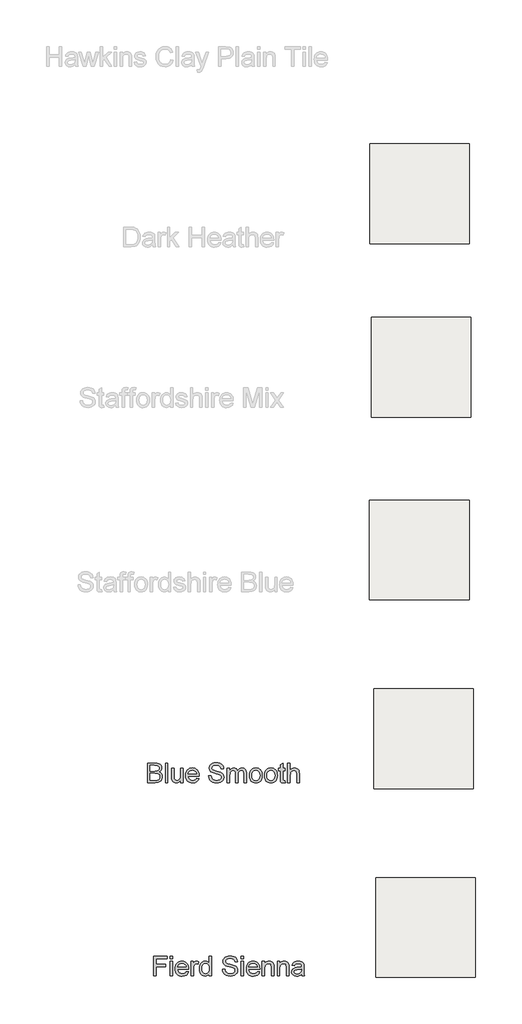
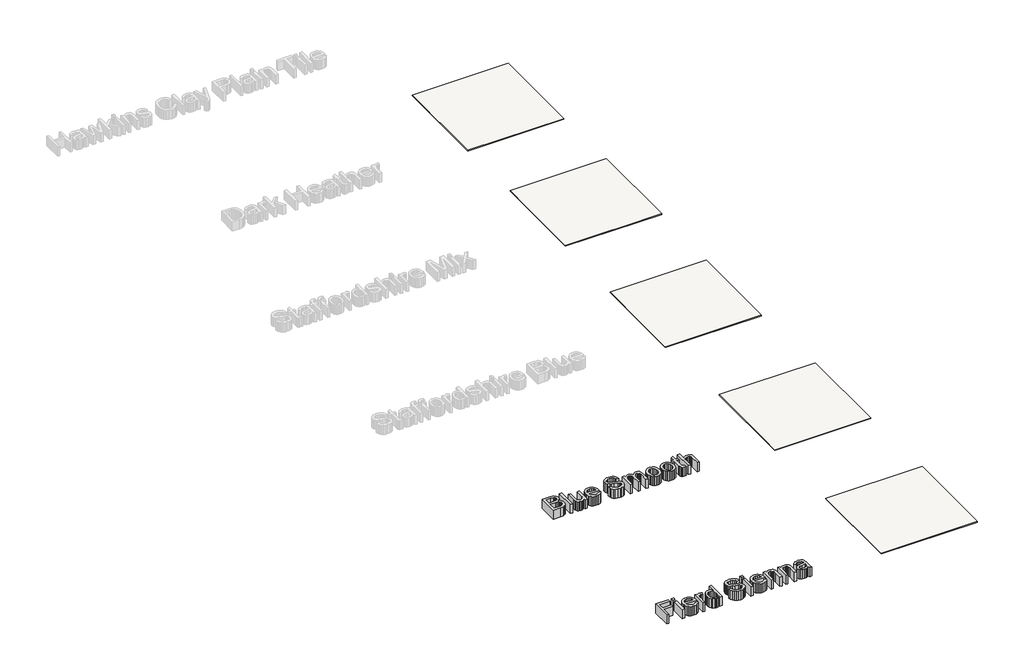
# One storey, part 1 of 4: 5 coverings, 2 proxies.
"""IFC4 building model written with IfcOpenShell, lengths in millimetres."""

from ifc_helpers import new_model, si_unit, frame, origin, place, context, project, spatial, polyline, outline, extrude, element, save

model = new_model("IFC4")

# Units and contexts
model_context = context("Model", 3, world=origin())
ifc_project = project(units=[si_unit("LENGTHUNIT", "METRE", prefix="MILLI")], contexts=[model_context])

# Site, building, storey
site = spatial("IfcSite", under=ifc_project)
building = spatial("IfcBuilding", under=site)
storey = spatial("IfcBuildingStorey", under=building, Name="Marley Clay Plain Tile", Elevation=3000.0)

# Proxies
placement = place(None, origin())
element("IfcBuildingElementProxy", 1, Name="600mm Arial", ObjectType="600mm Arial", at=placement, inside=storey, context=model_context, shape_type="SweptSolid", body=[
    extrude(outline(polyline([(-13897.6052625, -4807.180085), (-13897.6052625, -4511.7954696), (-13784.8889163, -4511.7954696), (-13753.8883154, -4513.9679456), (-13729.6845894, -4520.4853735), (-13711.1329067, -4531.5100129), (-13697.0884355, -4547.2041235), (-13688.2452865, -4565.6656619), (-13685.2975702, -4584.992585), (-13687.7765365, -4602.7780417), (-13695.2134355, -4619.4997965), (-13707.6623538, -4634.1302052), (-13725.1773779, -4645.6416235), (-13704.2549019, -4656.5671042), (-13688.7951663, -4673.1897004), (-13679.2488923, -4694.4096523), (-13676.0668009, -4719.1272004), (-13678.2392769, -4739.7251571), (-13684.7567048, -4758.8267196), (-13694.4832673, -4775.07071), (-13706.2831471, -4787.0959504), (-13720.7332673, -4795.8038831), (-13738.4105509, -4802.0959504), (-13785.7543009, -4807.180085), (-13897.6052625, -4807.180085)]), holes=[polyline([(-13860.6821855, -4631.7954696), (-13793.2543009, -4631.7954696), (-13753.8793009, -4628.6223927), (-13740.096248, -4623.1506379), (-13730.1893971, -4614.9565273), (-13724.2128346, -4604.1662629), (-13722.2206471, -4590.9060465), (-13724.0776182, -4578.0334504), (-13729.6485317, -4566.8195081), (-13738.6809836, -4558.0665033), (-13750.9225702, -4552.5767196), (-13798.3744932, -4548.7185465), (-13860.6821855, -4548.7185465), (-13860.6821855, -4631.7954696)]), polyline([(-13860.6821855, -4770.2570081), (-13784.9610317, -4770.2570081), (-13757.5571855, -4768.8147004), (-13734.3720894, -4760.773835), (-13719.0115125, -4744.367585), (-13714.4952865, -4732.7750369), (-13712.9898779, -4719.4877773), (-13714.7567048, -4704.055085), (-13720.0571855, -4690.7858542), (-13729.314998, -4680.4102533), (-13742.9538202, -4673.6584504), (-13762.2717288, -4669.9535225), (-13788.5668009, -4668.7185465), (-13860.6821855, -4668.7185465), (-13860.6821855, -4770.2570081)])]), frame((0.0, 0.0, 3000.0), z_axis=(0.0, 0.0, 1.0), x_axis=(1.0, 0.0, 0.0)), (0.0, 0.0, 1.0), 150.0),
    extrude(outline(polyline([(-13629.9129548, -4807.180085), (-13629.9129548, -4511.7954696), (-13592.9898779, -4511.7954696), (-13592.9898779, -4807.180085), (-13629.9129548, -4807.180085)])), frame((0.0, 0.0, 3000.0), z_axis=(0.0, 0.0, 1.0), x_axis=(1.0, 0.0, 0.0)), (0.0, 0.0, 1.0), 150.0),
    extrude(outline(polyline([(-13399.143724, -4807.180085), (-13399.143724, -4769.8964312), (-13412.503099, -4788.2272605), (-13428.0619932, -4801.32071), (-13445.8204067, -4809.1767797), (-13465.7783394, -4811.7954696), (-13483.7621134, -4809.9565273), (-13500.5018971, -4804.4397004), (-13514.5463682, -4796.1464312), (-13524.4442048, -4785.9781619), (-13535.4418009, -4758.7906619), (-13537.6052625, -4724.4637388), (-13537.6052625, -4590.2570081), (-13500.6821855, -4590.2570081), (-13500.6821855, -4707.0839312), (-13498.4466086, -4744.7281619), (-13493.064998, -4757.2852533), (-13483.8432432, -4766.8315273), (-13471.394325, -4772.8621763), (-13456.331224, -4774.8723927), (-13440.4027384, -4772.8171042), (-13425.5018971, -4766.6512388), (-13413.2152384, -4756.9427052), (-13405.1293009, -4744.2594119), (-13400.6401182, -4726.8886187), (-13399.143724, -4703.117585), (-13399.143724, -4590.2570081), (-13362.2206471, -4590.2570081), (-13362.2206471, -4807.180085), (-13399.143724, -4807.180085)])), frame((0.0, 0.0, 3000.0), z_axis=(0.0, 0.0, 1.0), x_axis=(1.0, 0.0, 0.0)), (0.0, 0.0, 1.0), 150.0),
    extrude(outline(polyline([(-13159.5764163, -4742.5647004), (-13123.3744932, -4747.180085), (-13136.4183634, -4774.4577292), (-13157.2326663, -4794.8483542), (-13185.3486519, -4807.5586908), (-13220.2975702, -4811.7954696), (-13243.2077264, -4809.9677953), (-13263.6208875, -4804.4847725), (-13281.5370533, -4795.3464011), (-13296.956224, -4782.5526812), (-13309.3555629, -4766.4596824), (-13318.2122336, -4747.4234744), (-13323.526236, -4725.4440574), (-13325.2975702, -4700.5214312), (-13323.5082072, -4674.7537028), (-13318.1401182, -4652.0418638), (-13309.1933033, -4632.3859143), (-13296.6677625, -4615.7858542), (-13281.2891567, -4602.5977533), (-13263.7831471, -4593.1776812), (-13244.1497336, -4587.5256379), (-13222.3889163, -4585.6416235), (-13201.3289704, -4587.5211307), (-13182.283748, -4593.1596523), (-13165.2532492, -4602.5571884), (-13150.237474, -4615.7137388), (-13137.9801122, -4632.2777413), (-13129.2248538, -4651.8976331), (-13123.9716988, -4674.5734143), (-13122.2206471, -4700.305085), (-13122.4369932, -4710.2570081), (-13288.3744932, -4710.2570081), (-13281.9832673, -4737.8952292), (-13267.1365125, -4758.2137388), (-13245.7092288, -4770.7077292), (-13219.5764163, -4774.8723927), (-13199.924974, -4772.9433062), (-13183.3744932, -4767.1560465), (-13169.924974, -4757.1500369), (-13159.5764163, -4742.5647004)]), holes=[polyline([(-13288.3744932, -4673.3339312), (-13159.143724, -4673.3339312), (-13164.1377144, -4653.8267196), (-13173.9273779, -4639.8723927), (-13195.4538202, -4626.8916235), (-13222.5331471, -4622.5647004), (-13247.4219692, -4626.0172244), (-13268.0018971, -4636.3747965), (-13282.3077865, -4652.5196283), (-13288.3744932, -4673.3339312)])]), frame((0.0, 0.0, 3000.0), z_axis=(0.0, 0.0, 1.0), x_axis=(1.0, 0.0, 0.0)), (0.0, 0.0, 1.0), 150.0),
    extrude(outline(polyline([(-12979.143724, -4705.6416235), (-12942.2206471, -4705.6416235), (-12937.9838682, -4726.1314071), (-12930.3216086, -4742.6007581), (-12918.3684836, -4755.6716715), (-12901.2591086, -4765.9661427), (-12880.3456471, -4772.6458302), (-12856.9802625, -4774.8723927), (-12836.409349, -4773.1866956), (-12818.3985317, -4768.1296042), (-12803.8041807, -4760.1247965), (-12793.4826663, -4749.5959504), (-12787.3438442, -4737.507609), (-12785.2975702, -4724.8243158), (-12786.8300221, -4712.4655417), (-12791.4273779, -4701.7834504), (-12800.7663202, -4692.6698687), (-12816.5235317, -4685.0166235), (-12870.2855509, -4670.9180658), (-12905.5770173, -4661.5881379), (-12928.1581471, -4652.7089312), (-12946.5385557, -4640.2870562), (-12959.5643971, -4625.2329696), (-12967.3258154, -4607.8711908), (-12969.9129548, -4588.5262388), (-12966.7128346, -4566.9006379), (-12957.112474, -4546.7353735), (-12941.3642769, -4529.6440273), (-12919.7206471, -4517.2401812), (-12893.7410798, -4509.695109), (-12864.9850702, -4507.180085), (-12833.831224, -4509.8122965), (-12806.5716086, -4517.7089312), (-12784.1797817, -4530.7077292), (-12767.6293009, -4548.6464312), (-12757.1545413, -4570.4072485), (-12752.9898779, -4594.8723927), (-12789.9129548, -4594.8723927), (-12796.6918009, -4572.8411427), (-12810.8264163, -4556.9397004), (-12832.9117529, -4547.3122965), (-12863.5427625, -4544.1031619), (-12894.8949259, -4547.2762388), (-12916.4033394, -4556.7954696), (-12928.8432432, -4570.8038831), (-12932.9898779, -4587.4445081), (-12930.0511759, -4601.63321), (-12921.2350702, -4613.0454696), (-12900.393724, -4623.2497965), (-12860.9466086, -4633.6704696), (-12795.6100702, -4652.2041235), (-12774.5613923, -4665.5995562), (-12759.8768971, -4682.1320081), (-12751.2500942, -4701.6211908), (-12748.3744932, -4723.8868158), (-12751.6827865, -4746.648234), (-12761.6076663, -4768.0574888), (-12777.7434836, -4786.4829696), (-12799.6845894, -4800.2930658), (-12826.0698057, -4808.9198687), (-12855.5379548, -4811.7954696), (-12891.7128346, -4808.6945081), (-12921.487474, -4799.3916235), (-12945.2044211, -4783.8507581), (-12963.206224, -4762.0358542), (-12974.7627144, -4735.461335), (-12979.143724, -4705.6416235)])), frame((0.0, 0.0, 3000.0), z_axis=(0.0, 0.0, 1.0), x_axis=(1.0, 0.0, 0.0)), (0.0, 0.0, 1.0), 150.0),
    extrude(outline(polyline([(-12697.6052625, -4807.180085), (-12697.6052625, -4590.2570081), (-12660.6821855, -4590.2570081), (-12660.6821855, -4625.9541235), (-12649.5764163, -4609.5568879), (-12635.2975702, -4596.711335), (-12618.3324259, -4588.4090513), (-12599.1677625, -4585.6416235), (-12578.6329067, -4588.4631379), (-12562.1725702, -4596.9276812), (-12549.8768971, -4610.476359), (-12541.8360317, -4628.5502773), (-12528.377498, -4609.7777413), (-12513.0259355, -4596.3687869), (-12495.7813442, -4588.3234143), (-12476.643724, -4585.6416235), (-12448.8883154, -4590.1037629), (-12428.362474, -4603.4901812), (-12415.6791807, -4626.1614552), (-12411.4514163, -4658.4781619), (-12411.4514163, -4807.180085), (-12448.3744932, -4807.180085), (-12448.3744932, -4674.3435465), (-12451.799974, -4643.5142196), (-12456.6136759, -4635.0136187), (-12464.2038202, -4628.3339312), (-12473.9664404, -4624.0070081), (-12485.2975702, -4622.5647004), (-12505.300575, -4626.2606138), (-12521.6076663, -4637.3483542), (-12532.4520173, -4656.5851331), (-12536.0668009, -4684.7281619), (-12536.0668009, -4807.180085), (-12572.9898779, -4807.180085), (-12572.9898779, -4670.2329696), (-12575.1262961, -4649.3555658), (-12581.5355509, -4634.4637388), (-12592.8125942, -4625.53946), (-12609.5523779, -4622.5647004), (-12623.7771375, -4624.5478735), (-12636.8841086, -4630.4973927), (-12647.7014163, -4640.2690273), (-12655.0571855, -4653.7185465), (-12659.2759355, -4672.3784023), (-12660.6821855, -4697.7810465), (-12660.6821855, -4807.180085), (-12697.6052625, -4807.180085)])), frame((0.0, 0.0, 3000.0), z_axis=(0.0, 0.0, 1.0), x_axis=(1.0, 0.0, 0.0)), (0.0, 0.0, 1.0), 150.0),
    extrude(outline(polyline([(-12365.2975702, -4698.7185465), (-12363.3008754, -4670.625097), (-12357.3107913, -4646.4168638), (-12347.3273178, -4626.093847), (-12333.3504548, -4609.6560465), (-12319.2789404, -4599.1497364), (-12303.7470894, -4591.6452292), (-12286.7549019, -4587.1425249), (-12268.3023779, -4585.6416235), (-12247.9320353, -4587.4692977), (-12229.5133154, -4592.9523206), (-12213.046218, -4602.090692), (-12198.5307432, -4614.8844119), (-12186.6835377, -4630.9007881), (-12178.221248, -4649.7071283), (-12173.1438742, -4671.3034324), (-12171.4514163, -4695.6897004), (-12174.4442048, -4732.9913831), (-12183.4225702, -4761.3868158), (-12198.1250942, -4782.6518398), (-12218.2903586, -4798.5622965), (-12242.2416807, -4808.4871763), (-12268.3023779, -4811.7954696), (-12288.9701964, -4809.9745562), (-12307.5601904, -4804.5118158), (-12324.0723598, -4795.4072485), (-12338.5067048, -4782.6608542), (-12350.2277084, -4766.4889792), (-12358.5998538, -4747.1079696), (-12363.6231411, -4724.5178254), (-12365.2975702, -4698.7185465)]), holes=[polyline([(-12328.3744932, -4698.6464312), (-12324.1016567, -4732.0628975), (-12311.2831471, -4755.8699888), (-12291.9922817, -4770.1217917), (-12268.3023779, -4774.8723927), (-12244.7206471, -4770.0947485), (-12225.4658394, -4755.7618158), (-12212.6473298, -4731.6392196), (-12208.3744932, -4697.492585), (-12212.674373, -4665.0496763), (-12225.5740125, -4641.5671042), (-12244.8558634, -4627.3153013), (-12268.3023779, -4622.5647004), (-12291.9922817, -4627.2972725), (-12311.2831471, -4641.4949888), (-12324.1016567, -4665.2479937), (-12328.3744932, -4698.6464312)])]), frame((0.0, 0.0, 3000.0), z_axis=(0.0, 0.0, 1.0), x_axis=(1.0, 0.0, 0.0)), (0.0, 0.0, 1.0), 150.0),
    extrude(outline(polyline([(-12139.143724, -4698.7185465), (-12137.1470293, -4670.625097), (-12131.1569452, -4646.4168638), (-12121.1734716, -4626.093847), (-12107.1966086, -4609.6560465), (-12093.1250942, -4599.1497364), (-12077.5932432, -4591.6452292), (-12060.6010557, -4587.1425249), (-12042.1485317, -4585.6416235), (-12021.7781891, -4587.4692977), (-12003.3594692, -4592.9523206), (-11986.8923718, -4602.090692), (-11972.3768971, -4614.8844119), (-11960.5296916, -4630.9007881), (-11952.0674019, -4649.7071283), (-11946.9900281, -4671.3034324), (-11945.2975702, -4695.6897004), (-11948.2903586, -4732.9913831), (-11957.268724, -4761.3868158), (-11971.971248, -4782.6518398), (-11992.1365125, -4798.5622965), (-12016.0878346, -4808.4871763), (-12042.1485317, -4811.7954696), (-12062.8163502, -4809.9745562), (-12081.4063442, -4804.5118158), (-12097.9185137, -4795.4072485), (-12112.3528586, -4782.6608542), (-12124.0738622, -4766.4889792), (-12132.4460077, -4747.1079696), (-12137.4692949, -4724.5178254), (-12139.143724, -4698.7185465)]), holes=[polyline([(-12102.2206471, -4698.6464312), (-12097.9478105, -4732.0628975), (-12085.1293009, -4755.8699888), (-12065.8384355, -4770.1217917), (-12042.1485317, -4774.8723927), (-12018.5668009, -4770.0947485), (-11999.3119932, -4755.7618158), (-11986.4934836, -4731.6392196), (-11982.2206471, -4697.492585), (-11986.5205269, -4665.0496763), (-11999.4201663, -4641.5671042), (-12018.7020173, -4627.3153013), (-12042.1485317, -4622.5647004), (-12065.8384355, -4627.2972725), (-12085.1293009, -4641.4949888), (-12097.9478105, -4665.2479937), (-12102.2206471, -4698.6464312)])]), frame((0.0, 0.0, 3000.0), z_axis=(0.0, 0.0, 1.0), x_axis=(1.0, 0.0, 0.0)), (0.0, 0.0, 1.0), 150.0),
    extrude(outline(polyline([(-11825.2975702, -4776.3868158), (-11820.6821855, -4808.2618158), (-11848.3023779, -4811.7954696), (-11866.0247336, -4810.2630177), (-11879.2398779, -4805.6656619), (-11888.5788202, -4798.5803254), (-11894.6725702, -4789.5839312), (-11898.0259355, -4774.13321), (-11899.143724, -4747.6848927), (-11899.143724, -4627.180085), (-11926.8360317, -4627.180085), (-11926.8360317, -4590.2570081), (-11899.143724, -4590.2570081), (-11899.143724, -4537.5406619), (-11862.2206471, -4515.8339312), (-11862.2206471, -4590.2570081), (-11825.2975702, -4590.2570081), (-11825.2975702, -4627.180085), (-11862.2206471, -4627.180085), (-11862.2206471, -4746.6031619), (-11860.2735317, -4765.6416235), (-11853.9634355, -4772.3844119), (-11841.3793009, -4774.8723927), (-11825.2975702, -4776.3868158)])), frame((0.0, 0.0, 3000.0), z_axis=(0.0, 0.0, 1.0), x_axis=(1.0, 0.0, 0.0)), (0.0, 0.0, 1.0), 150.0),
    extrude(outline(polyline([(-11788.3744932, -4807.180085), (-11788.3744932, -4511.7954696), (-11751.4514163, -4511.7954696), (-11751.4514163, -4620.4012388), (-11737.8892168, -4605.1939071), (-11722.659349, -4594.3315273), (-11705.7618129, -4587.8140994), (-11687.1966086, -4585.6416235), (-11664.8949259, -4588.0124167), (-11645.7302625, -4595.1247965), (-11630.6401182, -4606.4198687), (-11620.5619932, -4621.3387388), (-11614.8829067, -4641.8375369), (-11612.9898779, -4669.8723927), (-11612.9898779, -4807.180085), (-11649.9129548, -4807.180085), (-11649.9129548, -4673.6945081), (-11652.8516567, -4650.5815273), (-11661.6677625, -4634.7522004), (-11675.8744932, -4625.6115754), (-11694.9850702, -4622.5647004), (-11710.5890365, -4624.6199888), (-11725.237474, -4630.7858542), (-11737.3708875, -4640.4673446), (-11745.4297817, -4653.0695081), (-11749.9460077, -4669.8183062), (-11751.4514163, -4691.9397004), (-11751.4514163, -4807.180085), (-11788.3744932, -4807.180085)])), frame((0.0, 0.0, 3000.0), z_axis=(0.0, 0.0, 1.0), x_axis=(1.0, 0.0, 0.0)), (0.0, 0.0, 1.0), 150.0),
])
element("IfcBuildingElementProxy", 2, Name="600mm Arial", ObjectType="600mm Arial", at=placement, inside=storey, context=model_context, shape_type="SweptSolid", body=[
    extrude(outline(polyline([(-13805.257342, -7712.592749), (-13805.257342, -7417.2081336), (-13606.7958035, -7417.2081336), (-13606.7958035, -7454.1312105), (-13768.3342651, -7454.1312105), (-13768.3342651, -7541.8235182), (-13629.8727266, -7541.8235182), (-13629.8727266, -7578.7465952), (-13768.3342651, -7578.7465952), (-13768.3342651, -7712.592749), (-13805.257342, -7712.592749)])), frame((0.0, 0.0, 3000.0), z_axis=(0.0, 0.0, 1.0), x_axis=(1.0, 0.0, 0.0)), (0.0, 0.0, 1.0), 150.0),
    extrude(outline(polyline([(-13560.6419574, -7712.592749), (-13560.6419574, -7495.6696721), (-13523.7188805, -7495.6696721), (-13523.7188805, -7712.592749), (-13560.6419574, -7712.592749)])), frame((0.0, 0.0, 3000.0), z_axis=(0.0, 0.0, 1.0), x_axis=(1.0, 0.0, 0.0)), (0.0, 0.0, 1.0), 150.0),
    extrude(outline(polyline([(-13560.6419574, -7454.1312105), (-13560.6419574, -7417.2081336), (-13523.7188805, -7417.2081336), (-13523.7188805, -7454.1312105), (-13560.6419574, -7454.1312105)])), frame((0.0, 0.0, 3000.0), z_axis=(0.0, 0.0, 1.0), x_axis=(1.0, 0.0, 0.0)), (0.0, 0.0, 1.0), 150.0),
    extrude(outline(polyline([(-13316.4592651, -7647.9773644), (-13280.257342, -7652.592749), (-13293.3012122, -7679.8703932), (-13314.1155151, -7700.2610182), (-13342.2315007, -7712.9713548), (-13377.1804189, -7717.2081336), (-13400.0905752, -7715.3804593), (-13420.5037362, -7709.8974365), (-13438.4199021, -7700.7590651), (-13453.8390728, -7687.9653452), (-13466.2384117, -7671.8723464), (-13475.0950824, -7652.8361384), (-13480.4090848, -7630.8567214), (-13482.1804189, -7605.9340952), (-13480.3910559, -7580.1663668), (-13475.022967, -7557.4545278), (-13466.0761521, -7537.7985783), (-13453.5506112, -7521.1985182), (-13438.1720055, -7508.0104173), (-13420.6659959, -7498.5903452), (-13401.0325824, -7492.9383019), (-13379.2717651, -7491.0542875), (-13358.2118192, -7492.9337947), (-13339.1665968, -7498.5723163), (-13322.136098, -7507.9698524), (-13307.1203228, -7521.1264028), (-13294.862961, -7537.6904053), (-13286.1077026, -7557.3102971), (-13280.8545475, -7579.9860783), (-13279.1034959, -7605.717749), (-13279.319842, -7615.6696721), (-13445.257342, -7615.6696721), (-13438.866116, -7643.3078932), (-13424.0193612, -7663.6264028), (-13402.5920776, -7676.1203932), (-13376.4592651, -7680.2850567), (-13356.8078228, -7678.3559702), (-13340.257342, -7672.5687105), (-13326.8078228, -7662.5627009), (-13316.4592651, -7647.9773644)]), holes=[polyline([(-13445.257342, -7578.7465952), (-13316.0265728, -7578.7465952), (-13321.0205632, -7559.2393836), (-13330.8102266, -7545.2850567), (-13352.3366689, -7532.3042875), (-13379.4159959, -7527.9773644), (-13404.304818, -7531.4298884), (-13424.8847459, -7541.7874605), (-13439.1906353, -7557.9322923), (-13445.257342, -7578.7465952)])]), frame((0.0, 0.0, 3000.0), z_axis=(0.0, 0.0, 1.0), x_axis=(1.0, 0.0, 0.0)), (0.0, 0.0, 1.0), 150.0),
    extrude(outline(polyline([(-13242.1804189, -7712.592749), (-13242.1804189, -7495.6696721), (-13209.8727266, -7495.6696721), (-13209.8727266, -7527.7610182), (-13197.9376305, -7509.155249), (-13186.9400343, -7498.1937105), (-13175.9063805, -7492.8391432), (-13163.8631112, -7491.0542875), (-13145.4736882, -7493.9028452), (-13126.7958035, -7502.4485182), (-13139.1275343, -7535.5494798), (-13152.1083035, -7529.8703932), (-13165.0890728, -7527.9773644), (-13176.1137122, -7529.7982778), (-13185.9664766, -7535.2610182), (-13193.9262122, -7543.9509221), (-13199.2717651, -7555.4533259), (-13203.7609478, -7576.0783259), (-13205.257342, -7598.5783259), (-13205.257342, -7712.592749), (-13242.1804189, -7712.592749)])), frame((0.0, 0.0, 3000.0), z_axis=(0.0, 0.0, 1.0), x_axis=(1.0, 0.0, 0.0)), (0.0, 0.0, 1.0), 150.0),
    extrude(outline(polyline([(-12969.8727266, -7712.592749), (-12969.8727266, -7677.7610182), (-12980.9199021, -7695.0191312), (-12994.3018132, -7707.3463548), (-13010.0184598, -7714.7426889), (-13028.069842, -7717.2081336), (-13051.9400343, -7713.6384221), (-13073.7909959, -7702.9292875), (-13092.288592, -7685.8289269), (-13106.0986882, -7663.0855375), (-13114.6984478, -7635.6185903), (-13117.5650343, -7604.3475567), (-13114.9238084, -7573.4641432), (-13107.0001305, -7545.5735182), (-13093.8030151, -7522.2622202), (-13075.3414766, -7505.1167875), (-13053.0127507, -7494.5699125), (-13028.2140728, -7491.0542875), (-13010.1491689, -7493.5693115), (-12994.1756112, -7501.1143836), (-12980.6359478, -7512.6798884), (-12969.8727266, -7527.2562105), (-12969.8727266, -7417.2081336), (-12932.9496497, -7417.2081336), (-12932.9496497, -7712.592749), (-12969.8727266, -7712.592749)]), holes=[polyline([(-13080.6419574, -7604.2033259), (-13076.4772939, -7637.6017634), (-13063.9833035, -7661.3547682), (-13045.8282555, -7675.5524846), (-13024.6804189, -7680.2850567), (-13003.5415968, -7675.7688307), (-12985.8462843, -7662.2201528), (-12973.866116, -7639.3866192), (-12969.8727266, -7607.0158259), (-12973.9382314, -7571.6252009), (-12986.1347459, -7547.0879413), (-13004.2807795, -7532.7550086), (-13026.194842, -7527.9773644), (-13047.5590247, -7532.5657057), (-13065.0650343, -7546.3307298), (-13076.7477266, -7569.9755615), (-13080.6419574, -7604.2033259)])]), frame((0.0, 0.0, 3000.0), z_axis=(0.0, 0.0, 1.0), x_axis=(1.0, 0.0, 0.0)), (0.0, 0.0, 1.0), 150.0),
    extrude(outline(polyline([(-12771.4111882, -7611.0542875), (-12734.4881112, -7611.0542875), (-12730.2513324, -7631.5440711), (-12722.5890728, -7648.0134221), (-12710.6359478, -7661.0843355), (-12693.5265728, -7671.3788067), (-12672.6131112, -7678.0584942), (-12649.2477266, -7680.2850567), (-12628.6768132, -7678.5993596), (-12610.6659959, -7673.5422682), (-12596.0716449, -7665.5374605), (-12585.7501305, -7655.0086144), (-12579.6113084, -7642.920273), (-12577.5650343, -7630.2369798), (-12579.0974862, -7617.8782057), (-12583.694842, -7607.1961144), (-12593.0337843, -7598.0825327), (-12608.7909959, -7590.4292875), (-12662.5530151, -7576.3307298), (-12697.8444814, -7567.0008019), (-12720.4256112, -7558.1215952), (-12738.8060199, -7545.6997202), (-12751.8318612, -7530.6456336), (-12759.5932795, -7513.2838548), (-12762.1804189, -7493.9389028), (-12758.9802987, -7472.3133019), (-12749.3799382, -7452.1480375), (-12733.631741, -7435.0566913), (-12711.9881112, -7422.6528452), (-12686.0085439, -7415.107773), (-12657.2525343, -7412.592749), (-12626.0986882, -7415.2249605), (-12598.8390728, -7423.1215952), (-12576.4472459, -7436.1203932), (-12559.8967651, -7454.0590952), (-12549.4220055, -7475.8199125), (-12545.257342, -7500.2850567), (-12582.1804189, -7500.2850567), (-12588.9592651, -7478.2538067), (-12603.0938805, -7462.3523644), (-12625.179217, -7452.7249605), (-12655.8102266, -7449.5158259), (-12687.1623901, -7452.6889028), (-12708.6708035, -7462.2081336), (-12721.1107074, -7476.2165471), (-12725.257342, -7492.8571721), (-12722.3186401, -7507.045874), (-12713.5025343, -7518.4581336), (-12692.6611882, -7528.6624605), (-12653.2140728, -7539.0831336), (-12587.8775343, -7557.6167875), (-12566.8288564, -7571.0122202), (-12552.1443612, -7587.5446721), (-12543.5175584, -7607.0338548), (-12540.6419574, -7629.2994798), (-12543.9502507, -7652.060898), (-12553.8751305, -7673.4701528), (-12570.0109478, -7691.8956336), (-12591.9520535, -7705.7057298), (-12618.3372699, -7714.3325327), (-12647.8054189, -7717.2081336), (-12683.9802987, -7714.1071721), (-12713.7549382, -7704.8042875), (-12737.4718853, -7689.2634221), (-12755.4736882, -7667.4485182), (-12767.0301785, -7640.873999), (-12771.4111882, -7611.0542875)])), frame((0.0, 0.0, 3000.0), z_axis=(0.0, 0.0, 1.0), x_axis=(1.0, 0.0, 0.0)), (0.0, 0.0, 1.0), 150.0),
    extrude(outline(polyline([(-12489.8727266, -7712.592749), (-12489.8727266, -7495.6696721), (-12452.9496497, -7495.6696721), (-12452.9496497, -7712.592749), (-12489.8727266, -7712.592749)])), frame((0.0, 0.0, 3000.0), z_axis=(0.0, 0.0, 1.0), x_axis=(1.0, 0.0, 0.0)), (0.0, 0.0, 1.0), 150.0),
    extrude(outline(polyline([(-12489.8727266, -7454.1312105), (-12489.8727266, -7417.2081336), (-12452.9496497, -7417.2081336), (-12452.9496497, -7454.1312105), (-12489.8727266, -7454.1312105)])), frame((0.0, 0.0, 3000.0), z_axis=(0.0, 0.0, 1.0), x_axis=(1.0, 0.0, 0.0)), (0.0, 0.0, 1.0), 150.0),
    extrude(outline(polyline([(-12245.6900343, -7647.9773644), (-12209.4881112, -7652.592749), (-12222.5319814, -7679.8703932), (-12243.3462843, -7700.2610182), (-12271.4622699, -7712.9713548), (-12306.4111882, -7717.2081336), (-12329.3213444, -7715.3804593), (-12349.7345055, -7709.8974365), (-12367.6506713, -7700.7590651), (-12383.069842, -7687.9653452), (-12395.4691809, -7671.8723464), (-12404.3258516, -7652.8361384), (-12409.639854, -7630.8567214), (-12411.4111882, -7605.9340952), (-12409.6218252, -7580.1663668), (-12404.2537362, -7557.4545278), (-12395.3069213, -7537.7985783), (-12382.7813805, -7521.1985182), (-12367.4027747, -7508.0104173), (-12349.8967651, -7498.5903452), (-12330.2633516, -7492.9383019), (-12308.5025343, -7491.0542875), (-12287.4425884, -7492.9337947), (-12268.397366, -7498.5723163), (-12251.3668672, -7507.9698524), (-12236.351092, -7521.1264028), (-12224.0937302, -7537.6904053), (-12215.3384718, -7557.3102971), (-12210.0853168, -7579.9860783), (-12208.3342651, -7605.717749), (-12208.5506112, -7615.6696721), (-12374.4881112, -7615.6696721), (-12368.0968853, -7643.3078932), (-12353.2501305, -7663.6264028), (-12331.8228468, -7676.1203932), (-12305.6900343, -7680.2850567), (-12286.038592, -7678.3559702), (-12269.4881112, -7672.5687105), (-12256.038592, -7662.5627009), (-12245.6900343, -7647.9773644)]), holes=[polyline([(-12374.4881112, -7578.7465952), (-12245.257342, -7578.7465952), (-12250.2513324, -7559.2393836), (-12260.0409959, -7545.2850567), (-12281.5674382, -7532.3042875), (-12308.6467651, -7527.9773644), (-12333.5355872, -7531.4298884), (-12354.1155151, -7541.7874605), (-12368.4214045, -7557.9322923), (-12374.4881112, -7578.7465952)])]), frame((0.0, 0.0, 3000.0), z_axis=(0.0, 0.0, 1.0), x_axis=(1.0, 0.0, 0.0)), (0.0, 0.0, 1.0), 150.0),
    extrude(outline(polyline([(-12171.4111882, -7712.592749), (-12171.4111882, -7495.6696721), (-12134.4881112, -7495.6696721), (-12134.4881112, -7525.9581336), (-12121.6605872, -7510.6877009), (-12106.2549382, -7499.780249), (-12088.2711641, -7493.2357778), (-12067.7092651, -7491.0542875), (-12049.5091449, -7492.8121), (-12032.8414766, -7498.0855375), (-12018.9412362, -7506.2165471), (-12009.0433997, -7516.5470759), (-11997.9736882, -7543.6985182), (-11996.0265728, -7579.3956336), (-11996.0265728, -7712.592749), (-12032.9496497, -7712.592749), (-12032.9496497, -7584.3715952), (-12037.2044574, -7551.7033259), (-12043.0908757, -7541.9767634), (-12052.2405151, -7534.4316913), (-12063.9682795, -7529.5909461), (-12077.5890728, -7527.9773644), (-12099.2146737, -7531.6011625), (-12117.6491689, -7542.4725567), (-12125.0162062, -7551.3472562), (-12130.2783757, -7563.4761625), (-12134.4881112, -7597.4965952), (-12134.4881112, -7712.592749), (-12171.4111882, -7712.592749)])), frame((0.0, 0.0, 3000.0), z_axis=(0.0, 0.0, 1.0), x_axis=(1.0, 0.0, 0.0)), (0.0, 0.0, 1.0), 150.0),
    extrude(outline(polyline([(-11945.257342, -7712.592749), (-11945.257342, -7495.6696721), (-11908.3342651, -7495.6696721), (-11908.3342651, -7525.9581336), (-11895.506741, -7510.6877009), (-11880.101092, -7499.780249), (-11862.117318, -7493.2357778), (-11841.5554189, -7491.0542875), (-11823.3552987, -7492.8121), (-11806.6876305, -7498.0855375), (-11792.7873901, -7506.2165471), (-11782.8895535, -7516.5470759), (-11771.819842, -7543.6985182), (-11769.8727266, -7579.3956336), (-11769.8727266, -7712.592749), (-11806.7958035, -7712.592749), (-11806.7958035, -7584.3715952), (-11811.0506112, -7551.7033259), (-11816.9370295, -7541.9767634), (-11826.0866689, -7534.4316913), (-11837.8144334, -7529.5909461), (-11851.4352266, -7527.9773644), (-11873.0608276, -7531.6011625), (-11891.4953228, -7542.4725567), (-11898.86236, -7551.3472562), (-11904.1245295, -7563.4761625), (-11908.3342651, -7597.4965952), (-11908.3342651, -7712.592749), (-11945.257342, -7712.592749)])), frame((0.0, 0.0, 3000.0), z_axis=(0.0, 0.0, 1.0), x_axis=(1.0, 0.0, 0.0)), (0.0, 0.0, 1.0), 150.0),
    extrude(outline(polyline([(-11580.6419574, -7684.9004413), (-11598.2831834, -7700.0266432), (-11616.4472459, -7709.9244798), (-11635.5488084, -7715.3872202), (-11656.0025343, -7717.2081336), (-11686.8589045, -7712.827124), (-11709.6203228, -7699.6840952), (-11723.6557795, -7679.7261625), (-11728.3342651, -7654.9004413), (-11726.5674382, -7639.5939509), (-11721.2669574, -7625.6937105), (-11713.0908757, -7613.7946721), (-11702.6972459, -7604.4917875), (-11676.8438805, -7592.3764028), (-11644.8967651, -7586.8235182), (-11607.1443612, -7580.9821721), (-11580.8583035, -7574.1312105), (-11580.6419574, -7565.9100567), (-11583.1840247, -7549.4316913), (-11590.8102266, -7538.6504413), (-11607.8655151, -7530.6456336), (-11631.6275343, -7527.9773644), (-11653.6227266, -7529.7532057), (-11668.9833035, -7535.0807298), (-11679.4580632, -7544.9334942), (-11686.7958035, -7560.2850567), (-11723.7188805, -7555.6696721), (-11717.3096257, -7535.4773644), (-11707.7453228, -7519.6119798), (-11694.1335439, -7507.4785663), (-11675.5818612, -7498.4821721), (-11652.8925584, -7492.9112586), (-11626.8679189, -7491.0542875), (-11601.9069814, -7492.6949125), (-11582.1203228, -7497.6167875), (-11567.2014526, -7505.0176288), (-11556.8438805, -7514.0951528), (-11549.9748901, -7525.3181096), (-11545.5217651, -7539.155249), (-11543.7188805, -7571.4629413), (-11543.7188805, -7617.4004413), (-11541.8438805, -7681.5470759), (-11534.4881112, -7712.592749), (-11571.4111882, -7712.592749), (-11580.6419574, -7684.9004413)]), holes=[polyline([(-11580.6419574, -7611.0542875), (-11640.2092651, -7622.3764028), (-11671.976092, -7628.3619798), (-11686.3631112, -7638.0975567), (-11691.4111882, -7652.3042875), (-11688.6617891, -7663.2838548), (-11680.413592, -7672.280249), (-11666.8468853, -7678.2838548), (-11648.1419574, -7680.2850567), (-11628.3102266, -7678.076523), (-11610.7861882, -7671.4509221), (-11596.5794574, -7661.6883019), (-11586.6996497, -7650.0687105), (-11582.3186401, -7638.0975567), (-11580.8583035, -7621.5110182), (-11580.6419574, -7611.0542875)])]), frame((0.0, 0.0, 3000.0), z_axis=(0.0, 0.0, 1.0), x_axis=(1.0, 0.0, 0.0)), (0.0, 0.0, 1.0), 150.0),
])

# Coverings
element("IfcCovering", 3, ObjectType="Marley_ClayPlainTile_HawkinsStaffordshireMix", at=placement, inside=storey, context=model_context, shape_type="SweptSolid", body=[
    extrude(outline(polyline([(-10530.8734778, 691.9894059), (-10530.8734778, 2191.9894059), (-9030.8734778, 2191.9894059), (-9030.8734778, 691.9894059), (-10530.8734778, 691.9894059)])), frame((0.0, 0.0, 3000.0), z_axis=(0.0, 0.0, 1.0), x_axis=(1.0, 0.0, 0.0)), (0.0, 0.0, 1.0), 11.0),
])
element("IfcCovering", 4, ObjectType="Marley_ClayPlainTile_HawkinsDarkHeather", at=placement, inside=storey, context=model_context, shape_type="SweptSolid", body=[
    extrude(outline(polyline([(-10553.5830041, 3301.0392505), (-10553.5830041, 4801.0392505), (-9053.5830041, 4801.0392505), (-9053.5830041, 3301.0392505), (-10553.5830041, 3301.0392505)])), frame((0.0, 0.0, 3000.0), z_axis=(0.0, 0.0, 1.0), x_axis=(1.0, 0.0, 0.0)), (0.0, 0.0, 1.0), 11.0),
])
element("IfcCovering", 5, ObjectType="Marley_ClayPlainTile_HawkinsFiredSienna", at=placement, inside=storey, context=model_context, shape_type="SweptSolid", body=[
    extrude(outline(polyline([(-10462.1882903, -7736.8967125), (-10462.1882903, -6236.8967125), (-8962.1882903, -6236.8967125), (-8962.1882903, -7736.8967125), (-10462.1882903, -7736.8967125)])), frame((0.0, 0.0, 3000.0), z_axis=(0.0, 0.0, 1.0), x_axis=(1.0, 0.0, 0.0)), (0.0, 0.0, 1.0), 11.0),
])
element("IfcCovering", 6, ObjectType="Marley_ClayPlainTile_HawkinsBlueSmooth", at=placement, inside=storey, context=model_context, shape_type="SweptSolid", body=[
    extrude(outline(polyline([(-10491.3007512, -4896.2137629), (-10491.3007512, -3396.2137629), (-8991.3007512, -3396.2137629), (-8991.3007512, -4896.2137629), (-10491.3007512, -4896.2137629)])), frame((0.0, 0.0, 3000.0), z_axis=(0.0, 0.0, 1.0), x_axis=(1.0, 0.0, 0.0)), (0.0, 0.0, 1.0), 11.0),
])
element("IfcCovering", 7, ObjectType="MarleyEternit_ClayPlainTile_HawkinsStaffordshireBlue", at=placement, inside=storey, context=model_context, shape_type="SweptSolid", body=[
    extrude(outline(polyline([(-10556.8620413, -2057.7380672), (-10556.8620413, -557.7380672), (-9056.8620413, -557.7380672), (-9056.8620413, -2057.7380672), (-10556.8620413, -2057.7380672)])), frame((0.0, 0.0, 3000.0), z_axis=(0.0, 0.0, 1.0), x_axis=(1.0, 0.0, 0.0)), (0.0, 0.0, 1.0), 11.0),
])

save(model, "model.ifc")
